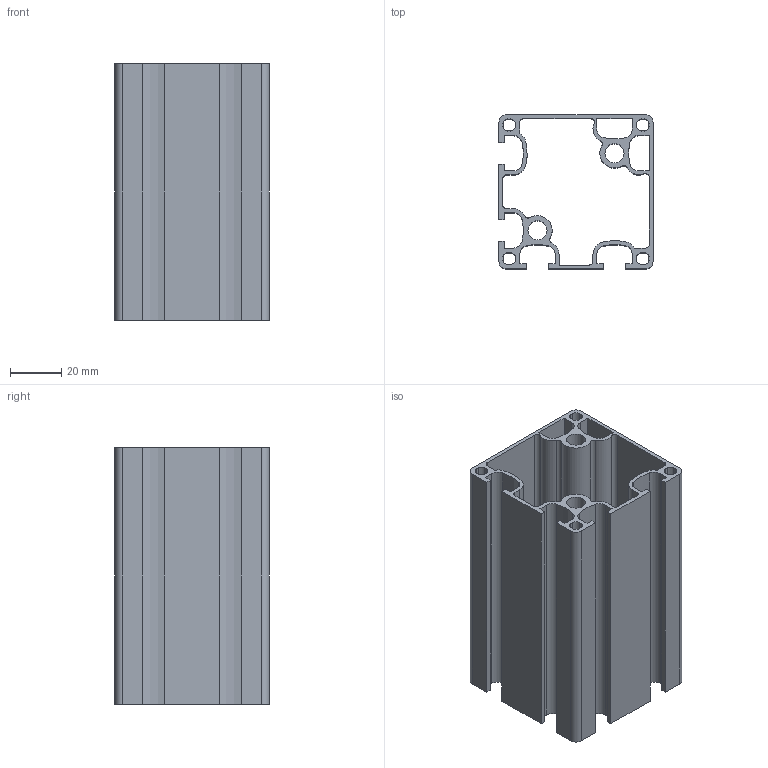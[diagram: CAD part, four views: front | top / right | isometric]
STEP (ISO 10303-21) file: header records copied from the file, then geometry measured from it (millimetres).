
FILE_DESCRIPTION (( 'STEP AP214' ), '1' );
FILE_NAME ('SA02009L.step', '2024-12-03T16:28:51', ( '' ), ( '' ), 'SwSTEP 2.0', 'SolidWorks 2023', '' );
FILE_SCHEMA (( 'AUTOMOTIVE_DESIGN' ));
Length unit declared in the file: millimetre
Products named in the file (1): SA02009L
Bounding box: 60 x 60 x 100 mm (x, y, z)
Volume: 68300.4 mm3; surface area: 76177.6 mm2
Topology: 1 solids, 1 shells, 161 faces, 477 edges, 318 vertices
Faces by surface type: plane 82, cylinder 79
Full cylindrical faces by diameter (mm): 7.45 x2
Entity records: 5478 total; most frequent: DIRECTION 957, CARTESIAN_POINT 955, ORIENTED_EDGE 950, EDGE_CURVE 475, AXIS2_PLACEMENT_3D 320, VERTEX_POINT 318, LINE 317, VECTOR 317
